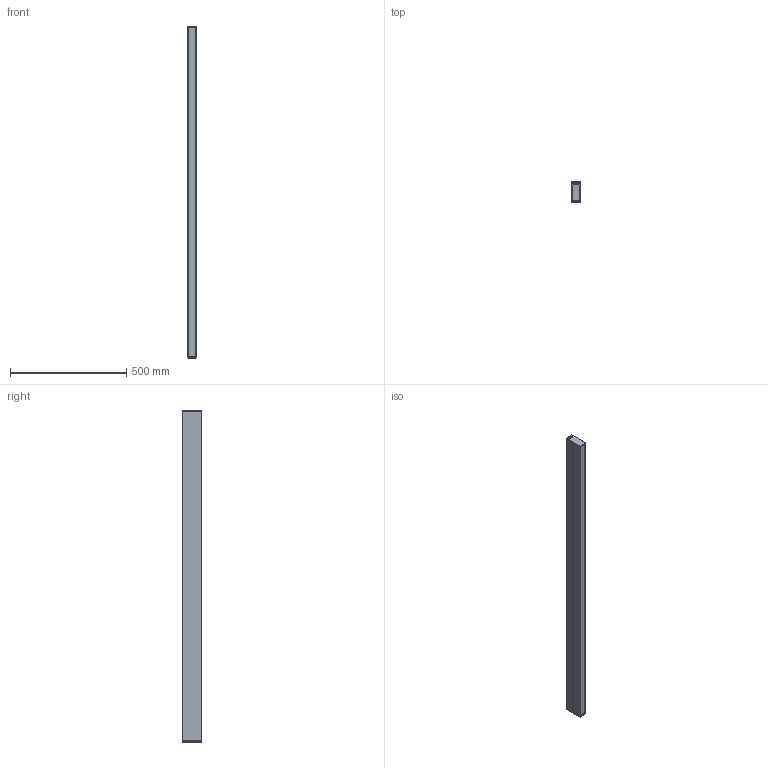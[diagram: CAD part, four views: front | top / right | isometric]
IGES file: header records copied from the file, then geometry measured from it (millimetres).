
Start section: SolidWorks IGES file using analytic representation for surfaces
Global section: file name: C:\Users\JoãoSantos\Desktop\02_3D.2D\01_2020\02_Linear\04_U35\02_Surface\U35_SURFACE_1429.IGS; native system: SolidWorks 2020; preprocessor: SolidWorks 2020; author: JoãoSantos; date: 201022.122305; units: millimetre
Bounding box: 35 x 85 x 1429 mm (x, y, z)
Surface area: 764028.6 mm2 (no closed solid volume)
Topology: 0 solids, 0 shells, 277 faces, 1824 edges, 1824 vertices
Faces by surface type: bspline 228, revolution 49
